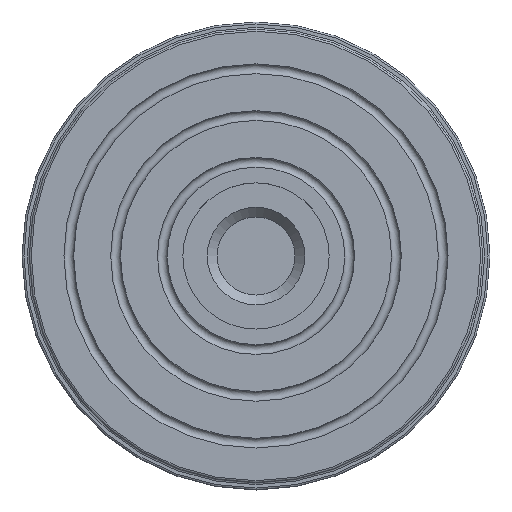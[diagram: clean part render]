
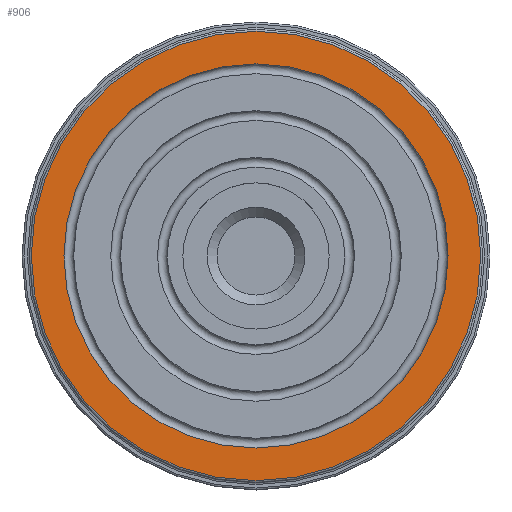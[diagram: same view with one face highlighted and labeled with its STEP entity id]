
A CAD part, top view. The second image highlights one B-rep face of the part: STEP entity #906.
In plain terms, the highlighted planar face has unit normal (0, 0, 1).
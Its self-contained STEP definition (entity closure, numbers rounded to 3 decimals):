
#906=ADVANCED_FACE('',(#1677,#1679),#1681,.T.);
#1677=FACE_BOUND('',#1678,.T.);
#1678=EDGE_LOOP('',(#4965));
#1679=FACE_BOUND('',#1680,.T.);
#1680=EDGE_LOOP('',(#4966));
#1681=PLANE('',#1682);
#1682=AXIS2_PLACEMENT_3D('',#1683,#1684,#1685);
#1683=CARTESIAN_POINT('',(0.,0.,0.));
#1684=DIRECTION('',(0.,0.,1.));
#1685=DIRECTION('',(0.,1.,0.));
#4965=ORIENTED_EDGE('',*,*,#5339,.F.);
#4966=ORIENTED_EDGE('',*,*,#5341,.T.);
#5339=EDGE_CURVE('',#5813,#5813,#5814,.T.);
#5341=EDGE_CURVE('',#5817,#5817,#5818,.T.);
#5813=VERTEX_POINT('',#8050);
#5814=CIRCLE('',#8051,23.05);
#5817=VERTEX_POINT('',#8060);
#5818=CIRCLE('',#8061,19.7);
#8050=CARTESIAN_POINT('',(0.,23.05,0.));
#8051=AXIS2_PLACEMENT_3D('',#8052,#8053,#8054);
#8052=CARTESIAN_POINT('',(0.,0.,0.));
#8053=DIRECTION('',(0.,0.,-1.));
#8054=DIRECTION('',(0.,1.,0.));
#8060=CARTESIAN_POINT('',(0.,19.7,0.));
#8061=AXIS2_PLACEMENT_3D('',#8062,#8063,#8064);
#8062=CARTESIAN_POINT('',(0.,0.,0.));
#8063=DIRECTION('',(0.,0.,-1.));
#8064=DIRECTION('',(0.,1.,0.));
